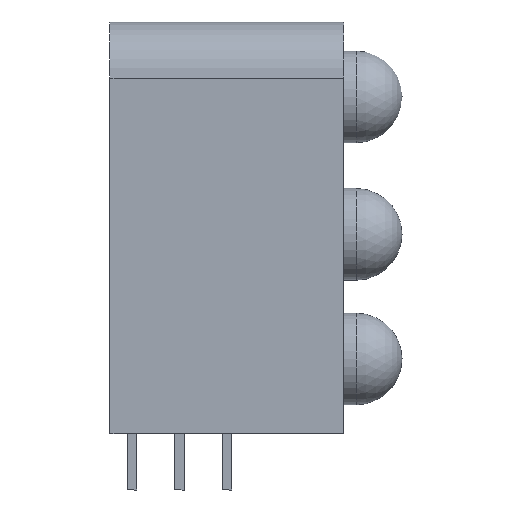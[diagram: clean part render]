
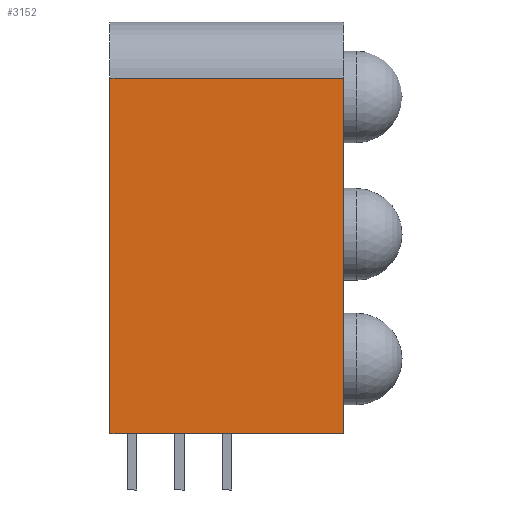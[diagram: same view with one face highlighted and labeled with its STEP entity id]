
A CAD part, left-side view. The second image highlights one B-rep face of the part: STEP entity #3152.
In plain terms, the highlighted planar face has unit normal (-1, 0, 0).
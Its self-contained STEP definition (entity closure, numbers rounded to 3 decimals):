
#2790 = VERTEX_POINT('',#2791);
#2791 = CARTESIAN_POINT('',(-4.,12.5,0.));
#2797 = EDGE_CURVE('',#2790,#2798,#2800,.T.);
#2798 = VERTEX_POINT('',#2799);
#2799 = CARTESIAN_POINT('',(-4.,12.5,19.));
#2800 = LINE('',#2801,#2802);
#2801 = CARTESIAN_POINT('',(-4.,12.5,0.));
#2802 = VECTOR('',#2803,1.);
#2803 = DIRECTION('',(0.,0.,1.));
#2894 = EDGE_CURVE('',#2895,#2790,#2897,.T.);
#2895 = VERTEX_POINT('',#2896);
#2896 = CARTESIAN_POINT('',(-4.,0.,0.));
#2897 = LINE('',#2898,#2899);
#2898 = CARTESIAN_POINT('',(-4.,0.,0.));
#2899 = VECTOR('',#2900,1.);
#2900 = DIRECTION('',(0.,1.,0.));
#3038 = EDGE_CURVE('',#3039,#2798,#3041,.T.);
#3039 = VERTEX_POINT('',#3040);
#3040 = CARTESIAN_POINT('',(-4.,0.,19.));
#3041 = LINE('',#3042,#3043);
#3042 = CARTESIAN_POINT('',(-4.,0.,19.));
#3043 = VECTOR('',#3044,1.);
#3044 = DIRECTION('',(0.,1.,0.));
#3152 = ADVANCED_FACE('',(#3153),#3164,.T.);
#3153 = FACE_BOUND('',#3154,.T.);
#3154 = EDGE_LOOP('',(#3155,#3161,#3162,#3163));
#3155 = ORIENTED_EDGE('',*,*,#3156,.T.);
#3156 = EDGE_CURVE('',#2895,#3039,#3157,.T.);
#3157 = LINE('',#3158,#3159);
#3158 = CARTESIAN_POINT('',(-4.,0.,0.));
#3159 = VECTOR('',#3160,1.);
#3160 = DIRECTION('',(0.,0.,1.));
#3161 = ORIENTED_EDGE('',*,*,#3038,.T.);
#3162 = ORIENTED_EDGE('',*,*,#2797,.F.);
#3163 = ORIENTED_EDGE('',*,*,#2894,.F.);
#3164 = PLANE('',#3165);
#3165 = AXIS2_PLACEMENT_3D('',#3166,#3167,#3168);
#3166 = CARTESIAN_POINT('',(-4.,0.,0.));
#3167 = DIRECTION('',(-1.,0.,0.));
#3168 = DIRECTION('',(0.,1.,0.));
